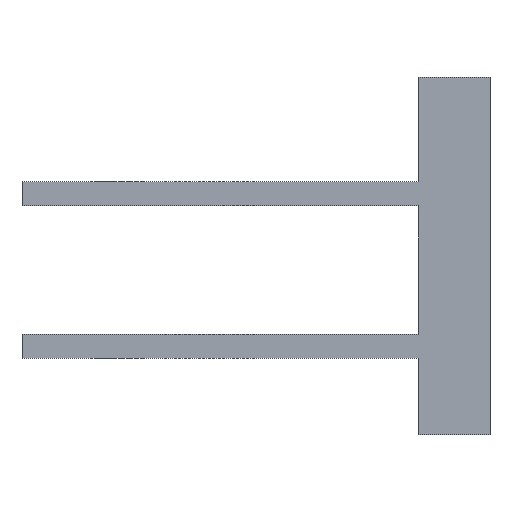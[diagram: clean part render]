
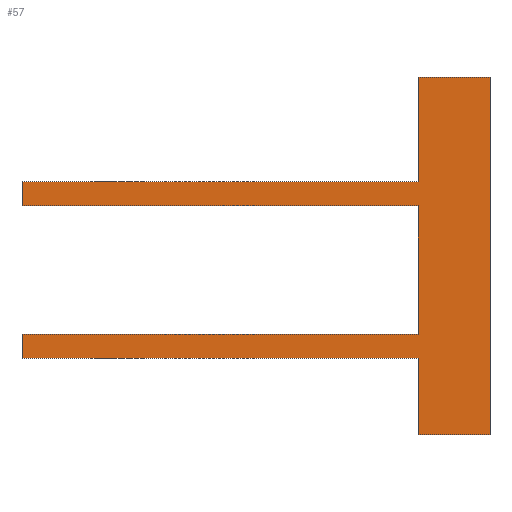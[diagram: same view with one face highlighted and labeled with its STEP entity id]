
A CAD part, front view. The second image highlights one B-rep face of the part: STEP entity #57.
In plain terms, the highlighted planar face has unit normal (0, -1, 0).
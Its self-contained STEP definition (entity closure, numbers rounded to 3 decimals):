
#21 = EDGE_CURVE('',#22,#24,#26,.T.);
#22 = VERTEX_POINT('',#23);
#23 = CARTESIAN_POINT('',(115.,-4.,-2.));
#24 = VERTEX_POINT('',#25);
#25 = CARTESIAN_POINT('',(121.,-4.,-2.));
#26 = LINE('',#27,#28);
#27 = CARTESIAN_POINT('',(115.,-4.,-2.));
#28 = VECTOR('',#29,1.);
#29 = DIRECTION('',(1.,0.,0.));
#57 = ADVANCED_FACE('',(#58),#147,.T.);
#58 = FACE_BOUND('',#59,.T.);
#59 = EDGE_LOOP('',(#60,#68,#69,#77,#85,#93,#101,#109,#117,#125,#133,
    #141));
#60 = ORIENTED_EDGE('',*,*,#61,.F.);
#61 = EDGE_CURVE('',#22,#62,#64,.T.);
#62 = VERTEX_POINT('',#63);
#63 = CARTESIAN_POINT('',(115.,-4.,4.35));
#64 = LINE('',#65,#66);
#65 = CARTESIAN_POINT('',(115.,-4.,-2.));
#66 = VECTOR('',#67,1.);
#67 = DIRECTION('',(0.,0.,1.));
#68 = ORIENTED_EDGE('',*,*,#21,.T.);
#69 = ORIENTED_EDGE('',*,*,#70,.T.);
#70 = EDGE_CURVE('',#24,#71,#73,.T.);
#71 = VERTEX_POINT('',#72);
#72 = CARTESIAN_POINT('',(121.,-4.,27.75));
#73 = LINE('',#74,#75);
#74 = CARTESIAN_POINT('',(121.,-4.,-2.));
#75 = VECTOR('',#76,1.);
#76 = DIRECTION('',(0.,0.,1.));
#77 = ORIENTED_EDGE('',*,*,#78,.F.);
#78 = EDGE_CURVE('',#79,#71,#81,.T.);
#79 = VERTEX_POINT('',#80);
#80 = CARTESIAN_POINT('',(115.,-4.,27.75));
#81 = LINE('',#82,#83);
#82 = CARTESIAN_POINT('',(115.,-4.,27.75));
#83 = VECTOR('',#84,1.);
#84 = DIRECTION('',(1.,0.,0.));
#85 = ORIENTED_EDGE('',*,*,#86,.F.);
#86 = EDGE_CURVE('',#87,#79,#89,.T.);
#87 = VERTEX_POINT('',#88);
#88 = CARTESIAN_POINT('',(115.,-4.,19.05));
#89 = LINE('',#90,#91);
#90 = CARTESIAN_POINT('',(115.,-4.,-2.));
#91 = VECTOR('',#92,1.);
#92 = DIRECTION('',(0.,0.,1.));
#93 = ORIENTED_EDGE('',*,*,#94,.F.);
#94 = EDGE_CURVE('',#95,#87,#97,.T.);
#95 = VERTEX_POINT('',#96);
#96 = CARTESIAN_POINT('',(82.,-4.,19.05));
#97 = LINE('',#98,#99);
#98 = CARTESIAN_POINT('',(82.,-4.,19.05));
#99 = VECTOR('',#100,1.);
#100 = DIRECTION('',(1.,0.,0.));
#101 = ORIENTED_EDGE('',*,*,#102,.F.);
#102 = EDGE_CURVE('',#103,#95,#105,.T.);
#103 = VERTEX_POINT('',#104);
#104 = CARTESIAN_POINT('',(82.,-4.,17.05));
#105 = LINE('',#106,#107);
#106 = CARTESIAN_POINT('',(82.,-4.,17.05));
#107 = VECTOR('',#108,1.);
#108 = DIRECTION('',(0.,0.,1.));
#109 = ORIENTED_EDGE('',*,*,#110,.T.);
#110 = EDGE_CURVE('',#103,#111,#113,.T.);
#111 = VERTEX_POINT('',#112);
#112 = CARTESIAN_POINT('',(115.,-4.,17.05));
#113 = LINE('',#114,#115);
#114 = CARTESIAN_POINT('',(82.,-4.,17.05));
#115 = VECTOR('',#116,1.);
#116 = DIRECTION('',(1.,0.,0.));
#117 = ORIENTED_EDGE('',*,*,#118,.F.);
#118 = EDGE_CURVE('',#119,#111,#121,.T.);
#119 = VERTEX_POINT('',#120);
#120 = CARTESIAN_POINT('',(115.,-4.,6.35));
#121 = LINE('',#122,#123);
#122 = CARTESIAN_POINT('',(115.,-4.,-2.));
#123 = VECTOR('',#124,1.);
#124 = DIRECTION('',(0.,0.,1.));
#125 = ORIENTED_EDGE('',*,*,#126,.F.);
#126 = EDGE_CURVE('',#127,#119,#129,.T.);
#127 = VERTEX_POINT('',#128);
#128 = CARTESIAN_POINT('',(82.,-4.,6.35));
#129 = LINE('',#130,#131);
#130 = CARTESIAN_POINT('',(82.,-4.,6.35));
#131 = VECTOR('',#132,1.);
#132 = DIRECTION('',(1.,0.,0.));
#133 = ORIENTED_EDGE('',*,*,#134,.F.);
#134 = EDGE_CURVE('',#135,#127,#137,.T.);
#135 = VERTEX_POINT('',#136);
#136 = CARTESIAN_POINT('',(82.,-4.,4.35));
#137 = LINE('',#138,#139);
#138 = CARTESIAN_POINT('',(82.,-4.,4.35));
#139 = VECTOR('',#140,1.);
#140 = DIRECTION('',(0.,0.,1.));
#141 = ORIENTED_EDGE('',*,*,#142,.T.);
#142 = EDGE_CURVE('',#135,#62,#143,.T.);
#143 = LINE('',#144,#145);
#144 = CARTESIAN_POINT('',(82.,-4.,4.35));
#145 = VECTOR('',#146,1.);
#146 = DIRECTION('',(1.,0.,0.));
#147 = PLANE('',#148);
#148 = AXIS2_PLACEMENT_3D('',#149,#150,#151);
#149 = CARTESIAN_POINT('',(104.703,-4.,12.113));
#150 = DIRECTION('',(-0.,-1.,-0.));
#151 = DIRECTION('',(0.,0.,-1.));
